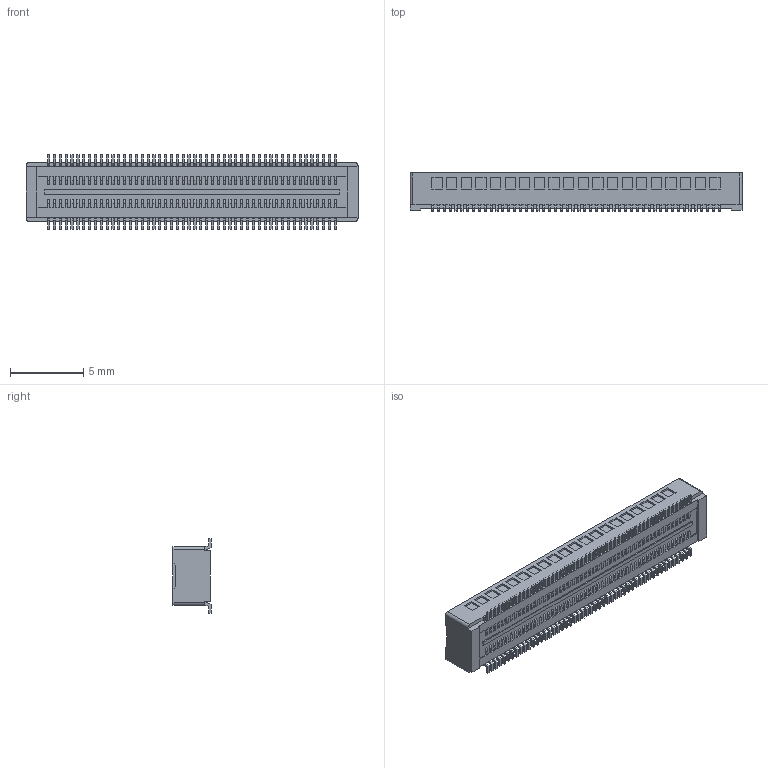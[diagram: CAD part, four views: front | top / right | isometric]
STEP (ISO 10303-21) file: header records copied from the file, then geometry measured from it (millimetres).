
FILE_DESCRIPTION((''),'2;1');
FILE_NAME('546841004','2019-02-14T',('gga'),(''),'PRO/ENGINEER BY PARAMETRIC TECHNOLOGY CORPORATION, 2016010','PRO/ENGINEER BY PARAMETRIC TECHNOLOGY CORPORATION, 2016010','');
FILE_SCHEMA(('CONFIG_CONTROL_DESIGN'));
Products named in the file (1): 546841004
Bounding box: 22.7 x 2.6 x 5.1 mm (x, y, z)
Volume: 165.7 mm3; surface area: 565.7 mm2
Topology: 1 solids, 1 shells, 2970 faces, 8570 edges, 5844 vertices
Faces by surface type: plane 2356, cylinder 614
Entity records: 96141 total; most frequent: CARTESIAN_POINT 17053, ORIENTED_EDGE 16340, DIRECTION 15720, EDGE_CURVE 8170, VECTOR 7338, LINE 7338, VERTEX_POINT 5444, AXIS2_PLACEMENT_3D 4191
